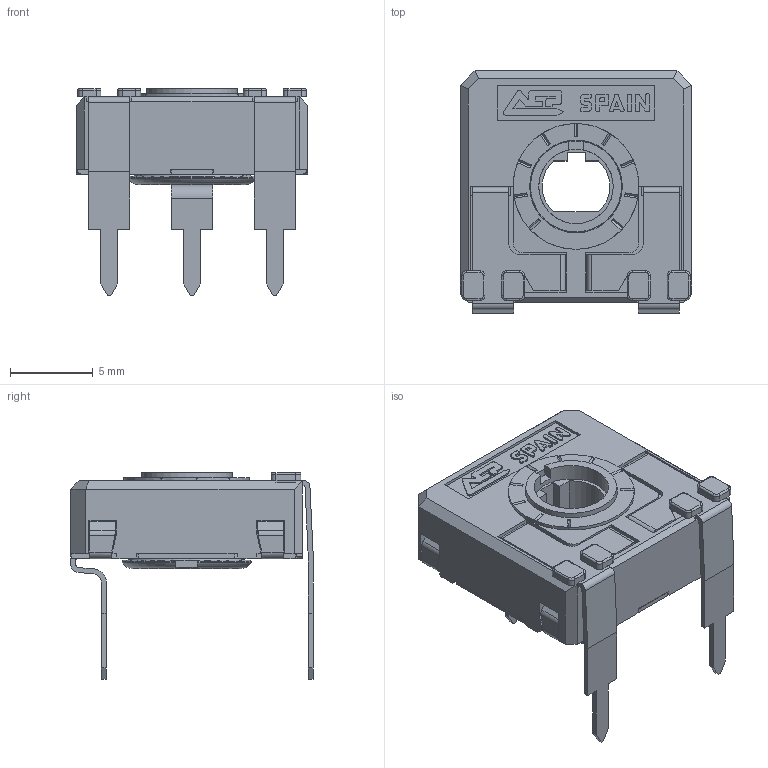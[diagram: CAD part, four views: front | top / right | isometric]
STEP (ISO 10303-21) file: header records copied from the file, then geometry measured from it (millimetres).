
FILE_DESCRIPTION(/* description */ (''),/* implementation_level */ '2;1');
FILE_NAME(/* name */ '\\SERVERACP\intercambio\Ignacio Santa Cecilia\Nueva WEB 2025\CA14 - CE14\CA14TVA12,5.stp',/* time_stamp */ '2025-06-13T11:25:11+02:00',/* author */ ('CEM'),/* organization */ (''),/* preprocessor_version */ 'ST-DEVELOPER v17',/* originating_system */ 'Autodesk Inventor 2018',/* authorisation */ '');
FILE_SCHEMA (('AUTOMOTIVE_DESIGN { 1 0 10303 214 3 1 1 }'));
Length unit declared in the file: millimetre
Products named in the file (1): CARCASA CA14 PGA
Bounding box: 14 x 14.65 x 12.5 mm (x, y, z)
Volume: 537.2 mm3; surface area: 1521.7 mm2
Topology: 1 solids, 1 shells, 686 faces, 1944 edges, 1254 vertices
Faces by surface type: plane 506, cylinder 143, torus 23, bspline 8, cone 6
Full cylindrical faces by diameter (mm): 4.5 x1, 5.5 x1, 5.6 x1, 5.752 x1, 6.8 x1, 7.6 x1
Entity records: 22472 total; most frequent: CARTESIAN_POINT 4182, ORIENTED_EDGE 3888, DIRECTION 3629, EDGE_CURVE 1944, LINE 1527, VECTOR 1527, VERTEX_POINT 1254, AXIS2_PLACEMENT_3D 1051
